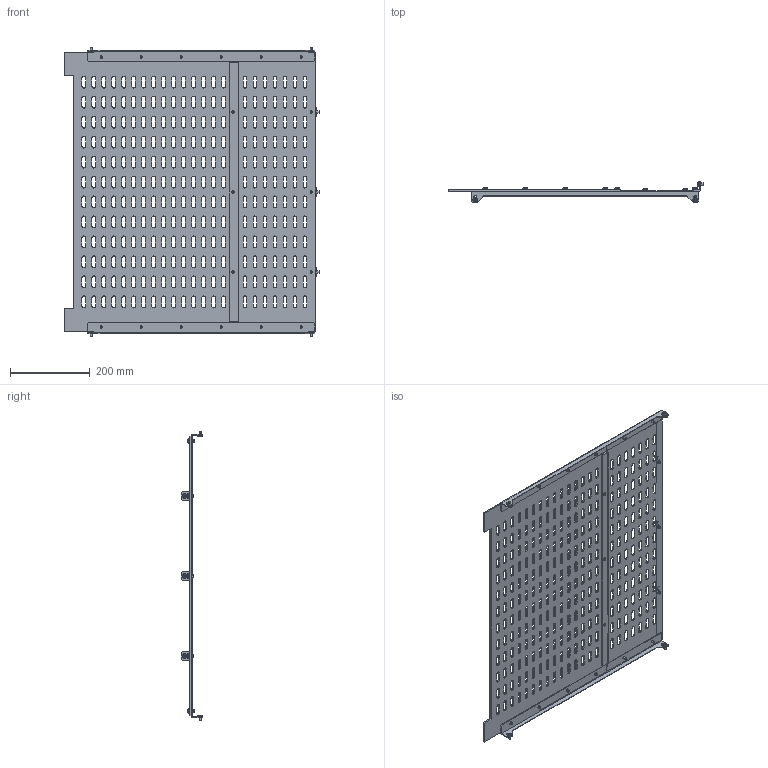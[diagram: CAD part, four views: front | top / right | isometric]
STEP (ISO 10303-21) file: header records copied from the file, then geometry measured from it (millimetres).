
FILE_DESCRIPTION (( 'STEP AP214' ), '1' );
FILE_NAME ('FO-00-3BGW-080-060 Êîìïëåêò ñåêöèîíèðîâàíèÿ 3b äëÿ ARMAT ACB òèïîðàçìåð G âûêàòíîãî èñïîëíåíèÿ 3P 800õ600 â øêàô ãëóáèíîé 1000 ìì.STEP', '2025-08-21T12:53:40', ( '' ), ( '' ), 'SwSTEP 2.0', 'SolidWorks 2023', '' );
FILE_SCHEMA (( 'AUTOMOTIVE_DESIGN' ));
Length unit declared in the file: millimetre
Products named in the file (3): Комплект секционирования 3b для ARMAT ACB типоразмер G выкатного исполнения 3P 800х600 в шкаф глубиной 1000 мм; FO-00-3BGW-080-060 Комплект секционирования 3b для ARMAT ACB типоразмер G выкатного исполнения 3P 800х600 в шкаф глубиной 1000 мм; 2хМ6х10x800
Assembly tree (3 placements, depth 2):
  FO-00-3BGW-080-060 Комплект секционирования 3b для ARMAT ACB типоразмер G выкатного исполнения 3P 800х600 в шкаф глубиной 1000 мм
    Комплект секционирования 3b для ARMAT ACB типоразмер G выкатного исполнения 3P 800х600 в шкаф глубиной 1000 мм
    2хМ6х10x800  x2
Bounding box: 637.7 x 53.1 x 725 mm (x, y, z)
Volume: 1289130.4 mm3; surface area: 851550.4 mm2
Topology: 5 solids, 23 shells, 2105 faces, 5784 edges, 3782 vertices
Faces by surface type: cylinder 1093, plane 820, cone 92, torus 92, sphere 8
Entity records: 67159 total; most frequent: DIRECTION 12070, CARTESIAN_POINT 11529, ORIENTED_EDGE 11292, EDGE_CURVE 5646, AXIS2_PLACEMENT_3D 4403, VERTEX_POINT 3694, VECTOR 3264, LINE 3264
